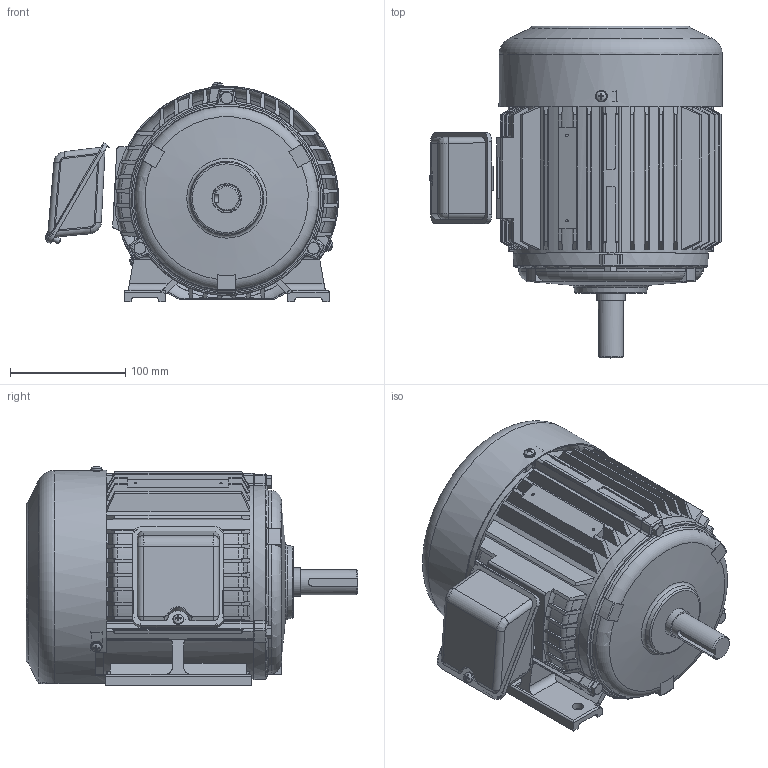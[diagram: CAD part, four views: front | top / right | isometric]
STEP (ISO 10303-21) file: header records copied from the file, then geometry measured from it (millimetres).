
FILE_DESCRIPTION(/* description */ ('Unknown'),/* implementation_level */ '2;1');
FILE_NAME(/* name */ '1-SMA-39251_외형도(160DIA)',/* time_stamp */ '2026-07-24T08:26:05+09:00',/* author */ ('Unknown'),/* organization */ ('Unknown'),/* preprocessor_version */ 'ST-DEVELOPER v16',/* originating_system */ 'DEX',/* authorisation */ $);
FILE_SCHEMA (('AUTOMOTIVE_DESIGN {1 0 10303 214 3 1 1}'));
Length unit declared in the file: millimetre
Products named in the file (14): 1-SMA-39251_寇屈档(160DI擄; 2-SMA-38820_FRAME(160DIA); 3-SMA-30853_¾Õºê¶óÄÏ(160DÅ¾|·Ï(; 4-SMA-30854_µÚºê¶óÄÏ(160D´¾|·Ï(; 5-SMA-39204_SHAFT(160DIA); 6-SMA-31241_FAN(120DIA~140DIA); 7-SMA-30643_FAN COVER(160DIA); 8-SMA-33038_T-BOX(鼻)(120,140DIA); 9-SMA-33039_T-BOX(ж)(120~140DIA); 褊濠 菅斬 該葬 獐お M5x; 幫陝獐お M6x1x; 敲罚瘤 绞磊  杭飘 M5x0_; 6204ZZ; 6205ZZ
Assembly tree (20 placements, depth 2):
  1-SMA-39251_寇屈档(160DI擄
    2-SMA-38820_FRAME(160DIA)
    3-SMA-30853_¾Õºê¶óÄÏ(160DÅ¾|·Ï(
    4-SMA-30854_µÚºê¶óÄÏ(160D´¾|·Ï(
    5-SMA-39204_SHAFT(160DIA)
    6-SMA-31241_FAN(120DIA~140DIA)
    7-SMA-30643_FAN COVER(160DIA)
    8-SMA-33038_T-BOX(鼻)(120,140DIA)
    9-SMA-33039_T-BOX(ж)(120~140DIA)
    褊濠 菅斬 該葬 獐お M5x
    幫陝獐お M6x1x  x6
    敲罚瘤 绞磊  杭飘 M5x0_  x3
    6204ZZ
    6205ZZ
Bounding box: 254.28 x 288 x 190.75 mm (x, y, z)
Volume: 1243086.8 mm3; surface area: 636915.4 mm2
Topology: 42 solids, 45 shells, 1690 faces, 4408 edges, 2815 vertices
Faces by surface type: plane 601, cylinder 534, cone 323, torus 172, sphere 36, bspline 24
Full cylindrical faces by diameter (mm): 2.2 x2, 4.134 x7, 4.917 x12, 5 x7, 6 x13, 8 x6, 9 x4, 10 x7, 14.1 x1, 14.2 x1, 19.8 x1, 20 x2, 20.6 x1, 22 x2, 24.8 x1, 25 x2, 25.1 x1, 25.6 x1, 27 x1, 27.714 x2, 28.114 x2, 29 x2, 32.714 x2, 33 x1, 33.114 x2, 38.886 x2, 39.286 x2, 43.886 x2, 44.286 x2, 47 x2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
Entity records: 65811 total; most frequent: CARTESIAN_POINT 24532, DIRECTION 7634, ORIENTED_EDGE 7564, EDGE_CURVE 3782, AXIS2_PLACEMENT_3D 3065, VERTEX_POINT 2510, FACE_BOUND 1878, EDGE_LOOP 1854
